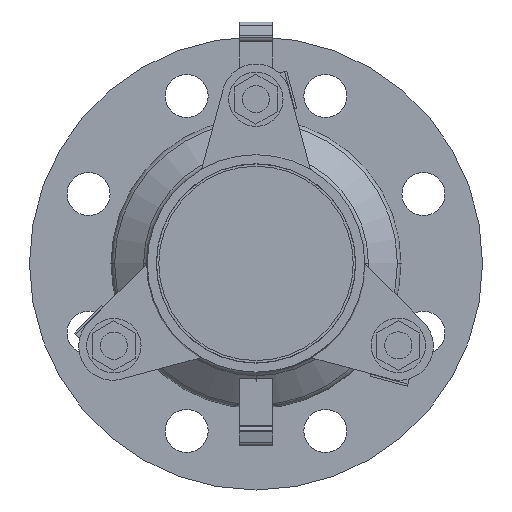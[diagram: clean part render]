
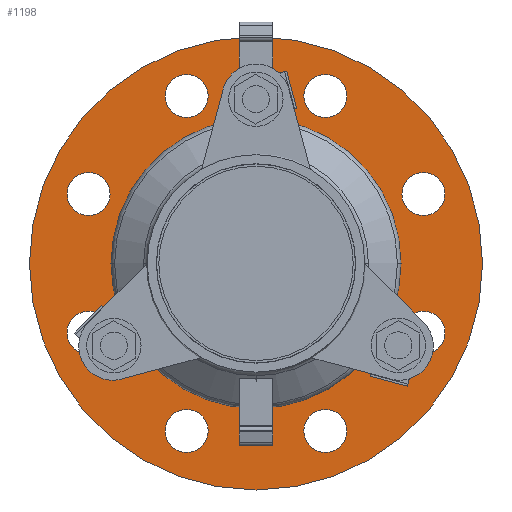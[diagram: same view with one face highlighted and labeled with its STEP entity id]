
A CAD part, left-side view. The second image highlights one B-rep face of the part: STEP entity #1198.
In plain terms, the highlighted planar face has unit normal (-1, 0, 0).
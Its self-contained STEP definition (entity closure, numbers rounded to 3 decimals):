
#1198=ADVANCED_FACE('',(#2253,#2254,#2255,#2256,#2257,#2258,#2259,#2260,#2261,#2262),#2263,.T.);
#2253=FACE_BOUND('',#3445,.T.);
#2254=FACE_BOUND('',#3446,.T.);
#2255=FACE_BOUND('',#3447,.T.);
#2256=FACE_BOUND('',#3448,.T.);
#2257=FACE_BOUND('',#3449,.T.);
#2258=FACE_BOUND('',#3450,.T.);
#2259=FACE_BOUND('',#3451,.T.);
#2260=FACE_BOUND('',#3452,.T.);
#2261=FACE_BOUND('',#3453,.T.);
#2262=FACE_OUTER_BOUND('',#3454,.T.);
#2263=PLANE('',#3455);
#3445=EDGE_LOOP('',(#5628,#5629));
#3446=EDGE_LOOP('',(#5630,#5631));
#3447=EDGE_LOOP('',(#5632,#5633));
#3448=EDGE_LOOP('',(#5634,#5635));
#3449=EDGE_LOOP('',(#5636,#5637));
#3450=EDGE_LOOP('',(#5638,#5639));
#3451=EDGE_LOOP('',(#5640,#5641));
#3452=EDGE_LOOP('',(#5642,#5643));
#3453=EDGE_LOOP('',(#5644,#5645));
#3454=EDGE_LOOP('',(#5646,#5647));
#3455=AXIS2_PLACEMENT_3D('',#5648,#5649,#5650);
#5628=ORIENTED_EDGE('',*,*,#6770,.T.);
#5629=ORIENTED_EDGE('',*,*,#7264,.T.);
#5630=ORIENTED_EDGE('',*,*,#6967,.T.);
#5631=ORIENTED_EDGE('',*,*,#7239,.T.);
#5632=ORIENTED_EDGE('',*,*,#6803,.T.);
#5633=ORIENTED_EDGE('',*,*,#6818,.T.);
#5634=ORIENTED_EDGE('',*,*,#6737,.T.);
#5635=ORIENTED_EDGE('',*,*,#6589,.T.);
#5636=ORIENTED_EDGE('',*,*,#7265,.T.);
#5637=ORIENTED_EDGE('',*,*,#6647,.T.);
#5638=ORIENTED_EDGE('',*,*,#7266,.T.);
#5639=ORIENTED_EDGE('',*,*,#7123,.T.);
#5640=ORIENTED_EDGE('',*,*,#7267,.T.);
#5641=ORIENTED_EDGE('',*,*,#6810,.T.);
#5642=ORIENTED_EDGE('',*,*,#7144,.T.);
#5643=ORIENTED_EDGE('',*,*,#7109,.T.);
#5644=ORIENTED_EDGE('',*,*,#6489,.T.);
#5645=ORIENTED_EDGE('',*,*,#7268,.T.);
#5646=ORIENTED_EDGE('',*,*,#7051,.F.);
#5647=ORIENTED_EDGE('',*,*,#6581,.F.);
#5648=CARTESIAN_POINT('',(-19.0,0.0,0.));
#5649=DIRECTION('',(-1.0,0.0,0.));
#5650=DIRECTION('',(0.,0.0,-1.0));
#6489=EDGE_CURVE('',#7600,#7605,#7607,.T.);
#6581=EDGE_CURVE('',#7769,#7765,#7771,.T.);
#6589=EDGE_CURVE('',#7785,#7782,#7786,.T.);
#6647=EDGE_CURVE('',#7880,#7877,#7881,.T.);
#6737=EDGE_CURVE('',#7782,#7785,#8016,.T.);
#6770=EDGE_CURVE('',#8064,#8069,#8071,.T.);
#6803=EDGE_CURVE('',#8112,#8117,#8119,.T.);
#6810=EDGE_CURVE('',#8130,#8127,#8131,.T.);
#6818=EDGE_CURVE('',#8117,#8112,#8142,.T.);
#6967=EDGE_CURVE('',#8354,#8359,#8361,.T.);
#7051=EDGE_CURVE('',#7765,#7769,#8482,.T.);
#7109=EDGE_CURVE('',#8561,#8559,#8562,.T.);
#7123=EDGE_CURVE('',#8579,#8577,#8580,.T.);
#7144=EDGE_CURVE('',#8559,#8561,#8606,.T.);
#7239=EDGE_CURVE('',#8359,#8354,#8721,.T.);
#7264=EDGE_CURVE('',#8069,#8064,#8750,.T.);
#7265=EDGE_CURVE('',#7877,#7880,#8751,.T.);
#7266=EDGE_CURVE('',#8577,#8579,#8752,.T.);
#7267=EDGE_CURVE('',#8127,#8130,#8753,.T.);
#7268=EDGE_CURVE('',#7605,#7600,#8754,.T.);
#7600=VERTEX_POINT('',#9146);
#7605=VERTEX_POINT('',#9152);
#7607=CIRCLE('',#9155,40.0);
#7765=VERTEX_POINT('',#9363);
#7769=VERTEX_POINT('',#9368);
#7771=CIRCLE('',#9371,100.0);
#7782=VERTEX_POINT('',#9386);
#7785=VERTEX_POINT('',#9390);
#7786=CIRCLE('',#9391,9.5);
#7877=VERTEX_POINT('',#9512);
#7880=VERTEX_POINT('',#9516);
#7881=CIRCLE('',#9517,9.5);
#8016=CIRCLE('',#9697,9.5);
#8064=VERTEX_POINT('',#9761);
#8069=VERTEX_POINT('',#9767);
#8071=CIRCLE('',#9770,9.5);
#8112=VERTEX_POINT('',#9827);
#8117=VERTEX_POINT('',#9833);
#8119=CIRCLE('',#9836,9.5);
#8127=VERTEX_POINT('',#9846);
#8130=VERTEX_POINT('',#9850);
#8131=CIRCLE('',#9851,9.5);
#8142=CIRCLE('',#9863,9.5);
#8354=VERTEX_POINT('',#10129);
#8359=VERTEX_POINT('',#10135);
#8361=CIRCLE('',#10138,9.5);
#8482=CIRCLE('',#10297,100.0);
#8559=VERTEX_POINT('',#10392);
#8561=VERTEX_POINT('',#10395);
#8562=CIRCLE('',#10396,9.5);
#8577=VERTEX_POINT('',#10419);
#8579=VERTEX_POINT('',#10422);
#8580=CIRCLE('',#10423,9.5);
#8606=CIRCLE('',#10461,9.5);
#8721=CIRCLE('',#10610,9.5);
#8750=CIRCLE('',#10647,9.5);
#8751=CIRCLE('',#10648,9.5);
#8752=CIRCLE('',#10649,9.5);
#8753=CIRCLE('',#10650,9.5);
#8754=CIRCLE('',#10651,40.0);
#9146=CARTESIAN_POINT('',(-19.0,0.0,-40.0));
#9152=CARTESIAN_POINT('',(-19.0,0.,40.0));
#9155=AXIS2_PLACEMENT_3D('',#11000,#11001,#11002);
#9363=CARTESIAN_POINT('',(-19.0,0.0,-100.0));
#9368=CARTESIAN_POINT('',(-19.0,0.,100.0));
#9371=AXIS2_PLACEMENT_3D('',#11118,#11119,#11120);
#9386=CARTESIAN_POINT('',(-19.0,30.615,-83.41));
#9390=CARTESIAN_POINT('',(-19.0,30.615,-64.41));
#9391=AXIS2_PLACEMENT_3D('',#11126,#11127,#11128);
#9512=CARTESIAN_POINT('',(-19.0,73.91,-40.115));
#9516=CARTESIAN_POINT('',(-19.0,73.91,-21.115));
#9517=AXIS2_PLACEMENT_3D('',#11196,#11197,#11198);
#9697=AXIS2_PLACEMENT_3D('',#11304,#11305,#11306);
#9761=CARTESIAN_POINT('',(-19.0,-73.91,21.115));
#9767=CARTESIAN_POINT('',(-19.0,-73.91,40.115));
#9770=AXIS2_PLACEMENT_3D('',#11346,#11347,#11348);
#9827=CARTESIAN_POINT('',(-19.0,-30.615,-83.41));
#9833=CARTESIAN_POINT('',(-19.0,-30.615,-64.41));
#9836=AXIS2_PLACEMENT_3D('',#11382,#11383,#11384);
#9846=CARTESIAN_POINT('',(-19.0,30.615,64.41));
#9850=CARTESIAN_POINT('',(-19.0,30.615,83.41));
#9851=AXIS2_PLACEMENT_3D('',#11391,#11392,#11393);
#9863=AXIS2_PLACEMENT_3D('',#11404,#11405,#11406);
#10129=CARTESIAN_POINT('',(-19.0,-73.91,-40.115));
#10135=CARTESIAN_POINT('',(-19.0,-73.91,-21.115));
#10138=AXIS2_PLACEMENT_3D('',#11610,#11611,#11612);
#10297=AXIS2_PLACEMENT_3D('',#11720,#11721,#11722);
#10392=CARTESIAN_POINT('',(-19.0,-30.615,64.41));
#10395=CARTESIAN_POINT('',(-19.0,-30.615,83.41));
#10396=AXIS2_PLACEMENT_3D('',#11796,#11797,#11798);
#10419=CARTESIAN_POINT('',(-19.0,73.91,21.115));
#10422=CARTESIAN_POINT('',(-19.0,73.91,40.115));
#10423=AXIS2_PLACEMENT_3D('',#11808,#11809,#11810);
#10461=AXIS2_PLACEMENT_3D('',#11826,#11827,#11828);
#10610=AXIS2_PLACEMENT_3D('',#11923,#11924,#11925);
#10647=AXIS2_PLACEMENT_3D('',#11946,#11947,#11948);
#10648=AXIS2_PLACEMENT_3D('',#11949,#11950,#11951);
#10649=AXIS2_PLACEMENT_3D('',#11952,#11953,#11954);
#10650=AXIS2_PLACEMENT_3D('',#11955,#11956,#11957);
#10651=AXIS2_PLACEMENT_3D('',#11958,#11959,#11960);
#11000=CARTESIAN_POINT('',(-19.0,0.0,0.));
#11001=DIRECTION('',(1.0,0.0,0.));
#11002=DIRECTION('',(0.,0.0,-1.0));
#11118=CARTESIAN_POINT('',(-19.0,0.0,0.));
#11119=DIRECTION('',(1.0,0.0,0.));
#11120=DIRECTION('',(0.,0.0,-1.0));
#11126=CARTESIAN_POINT('',(-19.0,30.615,-73.91));
#11127=DIRECTION('',(1.0,0.0,0.));
#11128=DIRECTION('',(0.,0.0,-1.0));
#11196=CARTESIAN_POINT('',(-19.0,73.91,-30.615));
#11197=DIRECTION('',(1.0,0.0,0.));
#11198=DIRECTION('',(0.,0.0,-1.0));
#11304=CARTESIAN_POINT('',(-19.0,30.615,-73.91));
#11305=DIRECTION('',(1.0,0.0,0.));
#11306=DIRECTION('',(0.,0.0,-1.0));
#11346=CARTESIAN_POINT('',(-19.0,-73.91,30.615));
#11347=DIRECTION('',(1.0,0.0,0.));
#11348=DIRECTION('',(0.,0.0,-1.0));
#11382=CARTESIAN_POINT('',(-19.0,-30.615,-73.91));
#11383=DIRECTION('',(1.0,0.0,0.));
#11384=DIRECTION('',(0.,0.0,-1.0));
#11391=CARTESIAN_POINT('',(-19.0,30.615,73.91));
#11392=DIRECTION('',(1.0,0.0,0.));
#11393=DIRECTION('',(0.,0.0,-1.0));
#11404=CARTESIAN_POINT('',(-19.0,-30.615,-73.91));
#11405=DIRECTION('',(1.0,0.0,0.));
#11406=DIRECTION('',(0.,0.0,-1.0));
#11610=CARTESIAN_POINT('',(-19.0,-73.91,-30.615));
#11611=DIRECTION('',(1.0,0.0,0.));
#11612=DIRECTION('',(0.,0.0,-1.0));
#11720=CARTESIAN_POINT('',(-19.0,0.0,0.));
#11721=DIRECTION('',(1.0,0.0,0.));
#11722=DIRECTION('',(0.,0.0,-1.0));
#11796=CARTESIAN_POINT('',(-19.0,-30.615,73.91));
#11797=DIRECTION('',(1.0,0.0,0.));
#11798=DIRECTION('',(0.,0.0,-1.0));
#11808=CARTESIAN_POINT('',(-19.0,73.91,30.615));
#11809=DIRECTION('',(1.0,0.0,0.));
#11810=DIRECTION('',(0.,0.0,-1.0));
#11826=CARTESIAN_POINT('',(-19.0,-30.615,73.91));
#11827=DIRECTION('',(1.0,0.0,0.));
#11828=DIRECTION('',(0.,0.0,-1.0));
#11923=CARTESIAN_POINT('',(-19.0,-73.91,-30.615));
#11924=DIRECTION('',(1.0,0.0,0.));
#11925=DIRECTION('',(0.,0.0,-1.0));
#11946=CARTESIAN_POINT('',(-19.0,-73.91,30.615));
#11947=DIRECTION('',(1.0,0.0,0.));
#11948=DIRECTION('',(0.,0.0,-1.0));
#11949=CARTESIAN_POINT('',(-19.0,73.91,-30.615));
#11950=DIRECTION('',(1.0,0.0,0.));
#11951=DIRECTION('',(0.,0.0,-1.0));
#11952=CARTESIAN_POINT('',(-19.0,73.91,30.615));
#11953=DIRECTION('',(1.0,0.0,0.));
#11954=DIRECTION('',(0.,0.0,-1.0));
#11955=CARTESIAN_POINT('',(-19.0,30.615,73.91));
#11956=DIRECTION('',(1.0,0.0,0.));
#11957=DIRECTION('',(0.,0.0,-1.0));
#11958=CARTESIAN_POINT('',(-19.0,0.0,0.));
#11959=DIRECTION('',(1.0,0.0,0.));
#11960=DIRECTION('',(0.,0.0,-1.0));
